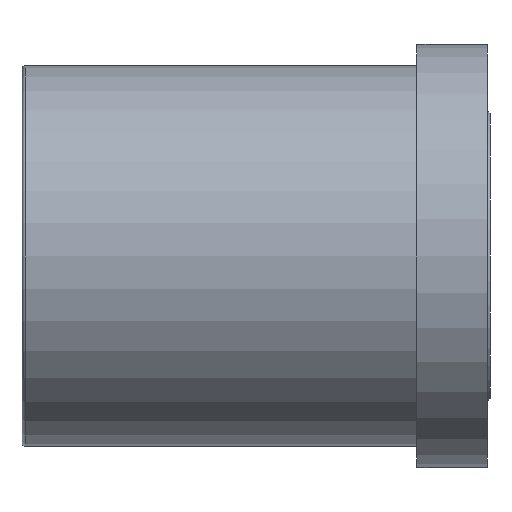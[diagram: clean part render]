
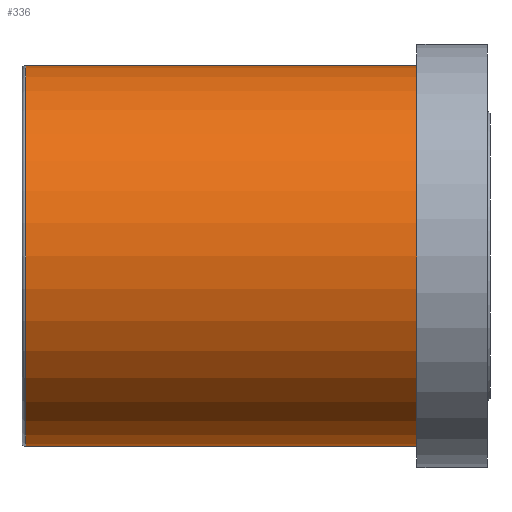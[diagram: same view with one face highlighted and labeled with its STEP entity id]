
A CAD part, left-side view. The second image highlights one B-rep face of the part: STEP entity #336.
In plain terms, the highlighted cylindrical face has radius 27 mm (diameter 54 mm), a partial arc.
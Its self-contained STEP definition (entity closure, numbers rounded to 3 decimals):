
#4 = EDGE_CURVE ( 'NONE', #173, #22, #365, .T. ) ;
#11 = CIRCLE ( 'NONE', #271, 27. ) ;
#22 = VERTEX_POINT ( 'NONE', #87 ) ;
#28 = CARTESIAN_POINT ( 'NONE',  ( 0., 0., -27. ) ) ;
#35 = CARTESIAN_POINT ( 'NONE',  ( 0., 55.5, 27. ) ) ;
#48 = ORIENTED_EDGE ( 'NONE', *, *, #354, .T. ) ;
#60 = ORIENTED_EDGE ( 'NONE', *, *, #294, .F. ) ;
#70 = DIRECTION ( 'NONE',  ( 0., -1., 0. ) ) ;
#87 = CARTESIAN_POINT ( 'NONE',  ( 0., 0., 27. ) ) ;
#110 = CYLINDRICAL_SURFACE ( 'NONE', #398, 27. ) ;
#129 = CIRCLE ( 'NONE', #321, 27. ) ;
#141 = ORIENTED_EDGE ( 'NONE', *, *, #4, .F. ) ;
#146 = DIRECTION ( 'NONE',  ( 0., -1., 0. ) ) ;
#147 = ORIENTED_EDGE ( 'NONE', *, *, #324, .T. ) ;
#173 = VERTEX_POINT ( 'NONE', #35 ) ;
#184 = CARTESIAN_POINT ( 'NONE',  ( 0., 0., 0. ) ) ;
#186 = DIRECTION ( 'NONE',  ( 0., -1., 0. ) ) ;
#212 = LINE ( 'NONE', #28, #317 ) ;
#224 = DIRECTION ( 'NONE',  ( 0., 0., -1. ) ) ;
#258 = DIRECTION ( 'NONE',  ( 0., 0., -1. ) ) ;
#259 = VECTOR ( 'NONE', #326, 1000. ) ;
#271 = AXIS2_PLACEMENT_3D ( 'NONE', #184, #449, #224 ) ;
#273 = CARTESIAN_POINT ( 'NONE',  ( 0., 55.5, -27. ) ) ;
#287 = VERTEX_POINT ( 'NONE', #273 ) ;
#294 = EDGE_CURVE ( 'NONE', #22, #323, #11, .T. ) ;
#317 = VECTOR ( 'NONE', #70, 1000. ) ;
#320 = FACE_OUTER_BOUND ( 'NONE', #441, .T. ) ;
#321 = AXIS2_PLACEMENT_3D ( 'NONE', #416, #186, #454 ) ;
#323 = VERTEX_POINT ( 'NONE', #428 ) ;
#324 = EDGE_CURVE ( 'NONE', #173, #287, #129, .T. ) ;
#326 = DIRECTION ( 'NONE',  ( 0., -1., 0. ) ) ;
#336 = ADVANCED_FACE ( 'NONE', ( #320 ), #110, .T. ) ;
#354 = EDGE_CURVE ( 'NONE', #287, #323, #212, .T. ) ;
#365 = LINE ( 'NONE', #370, #259 ) ;
#370 = CARTESIAN_POINT ( 'NONE',  ( 0., 0., 27. ) ) ;
#398 = AXIS2_PLACEMENT_3D ( 'NONE', #487, #146, #258 ) ;
#416 = CARTESIAN_POINT ( 'NONE',  ( 0., 55.5, 0. ) ) ;
#428 = CARTESIAN_POINT ( 'NONE',  ( 0., 0., -27. ) ) ;
#441 = EDGE_LOOP ( 'NONE', ( #141, #147, #48, #60 ) ) ;
#449 = DIRECTION ( 'NONE',  ( 0., -1., 0. ) ) ;
#454 = DIRECTION ( 'NONE',  ( 0., 0., -1. ) ) ;
#487 = CARTESIAN_POINT ( 'NONE',  ( 0., 0., 0. ) ) ;
